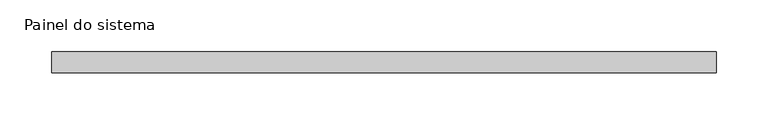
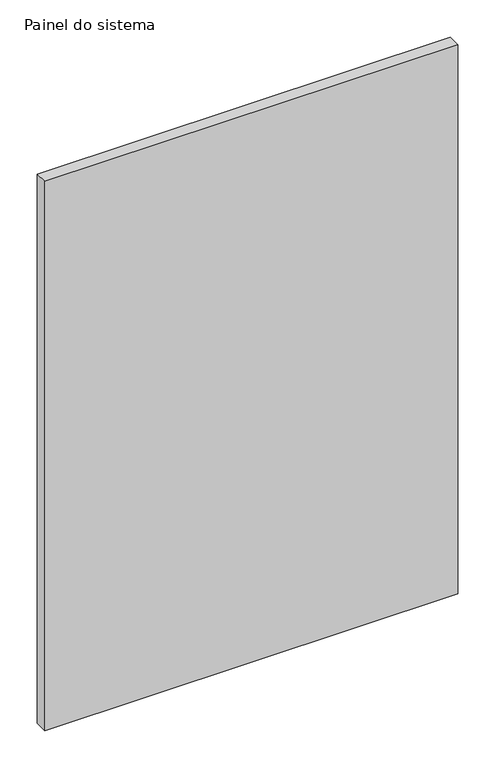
"""IFC4 building model written with IfcOpenShell, lengths in millimetres: plate geometry, Painel do sistema : Envidraçado."""

import ifcopenshell
import ifcopenshell.guid

model = None  # the IFC model being written
_history = None  # IfcOwnerHistory: only IFC2X3 demands one
_inside = {}  # id of a spatial element -> (the spatial element, [elements in it])
_under = {}  # id of a project, library or spatial element -> (it, [spatial elements below it])
_declared = {}  # id of a project -> (the project, [libraries it declares])
_typed = {}  # id of a type object -> (the type object, [elements of that type])
_made_of = {}  # id of a material, layer set ... -> (it, [elements and type objects made of it])


def new_model(schema):
    """Start an empty IFC model of exactly this schema.

    Asked for "IFC4X3", IfcOpenShell would pick the latest addendum, in which some entities
    have other attributes; the version numbers below select the first issue.
    IFC2X3 requires an IfcOwnerHistory on every rooted entity: one is made here for all.
    """
    global model, _history
    if schema == "IFC4X3":
        model = ifcopenshell.file(schema_version=(4, 3, 0, 0))
    else:
        model = ifcopenshell.file(schema=schema)
    _inside.clear()
    _under.clear()
    _declared.clear()
    _typed.clear()
    _made_of.clear()
    _history = None
    if model.schema == "IFC2X3":
        org = make("IfcOrganization", Name="unknown")
        user = make(
            "IfcPersonAndOrganization",
            ThePerson=make("IfcPerson", FamilyName="unknown"),
            TheOrganization=org,
        )
        app = make(
            "IfcApplication",
            ApplicationDeveloper=org,
            Version="unknown",
            ApplicationFullName="unknown",
            ApplicationIdentifier="unknown",
        )
        _history = make(
            "IfcOwnerHistory",
            OwningUser=user,
            OwningApplication=app,
            ChangeAction="ADDED",
            CreationDate=0,
        )
    return model


def make(cls, **values):
    """One entity of the class cls with the attributes given. An attribute that is None is left unset."""
    return model.create_entity(
        cls, **{name: value for name, value in values.items() if value is not None}
    )


def rooted(cls, **values):
    """An entity with a GlobalId (a new one), such as an element, a storey or a relation."""
    return make(cls, GlobalId=ifcopenshell.guid.new(), OwnerHistory=_history, **values)


def si_unit(unit_type, name, prefix=None):
    """IfcSIUnit, for example si_unit("LENGTHUNIT", "METRE", prefix="MILLI")."""
    return make("IfcSIUnit", UnitType=unit_type, Prefix=prefix, Name=name)


def assignment(units):
    """IfcUnitAssignment: the units of a project."""
    return None if units is None else make("IfcUnitAssignment", Units=units)


def point(xyz):
    """IfcCartesianPoint."""
    return None if xyz is None else make("IfcCartesianPoint", Coordinates=xyz)


def direction(xyz):
    """IfcDirection."""
    return None if xyz is None else make("IfcDirection", DirectionRatios=xyz)


def frame(location, z_axis=None, x_axis=None):
    """IfcAxis2Placement3D, a coordinate frame: its origin and axes. An axis left out is left unset."""
    return make(
        "IfcAxis2Placement3D",
        Location=point(location),
        Axis=direction(z_axis),
        RefDirection=direction(x_axis),
    )


def origin():
    """The frame at (0, 0, 0) with its axes left unset."""
    return frame((0.0, 0.0, 0.0))


def origin_with_axes():
    """The frame at (0, 0, 0) with the z axis (0, 0, 1) and the x axis (1, 0, 0) written out."""
    return frame((0.0, 0.0, 0.0), z_axis=(0.0, 0.0, 1.0), x_axis=(1.0, 0.0, 0.0))


def place(relative_to, where):
    """IfcLocalPlacement: puts the frame where relative to a parent placement (None: the world)."""
    return make(
        "IfcLocalPlacement", PlacementRelTo=relative_to, RelativePlacement=where
    )


def context(
    kind, dimensions, precision=None, world=None, true_north=None, identifier=None
):
    """IfcGeometricRepresentationContext, for example the 3D "Model" context."""
    return make(
        "IfcGeometricRepresentationContext",
        ContextIdentifier=identifier,
        ContextType=kind,
        CoordinateSpaceDimension=dimensions,
        Precision=precision,
        WorldCoordinateSystem=world,
        TrueNorth=true_north,
    )


def project(units=None, contexts=None):
    """IfcProject with its units and contexts."""
    return rooted(
        "IfcProject",
        Name="project",
        RepresentationContexts=contexts,
        UnitsInContext=assignment(units),
    )


def spatial(cls, under=None, at=None, **own):
    """A site, building, storey or space (cls), placed at a placement, below another one or the project."""
    s = rooted(cls, ObjectPlacement=at, **own)
    if under is not None:
        _under.setdefault(under.id(), (under, []))[1].append(s)
    return s


def polyline(points):
    """IfcPolyline through the points."""
    return make("IfcPolyline", Points=[point(p) for p in points])


def outline(outer, holes=None, kind="AREA"):
    """IfcArbitraryClosedProfileDef: a profile drawn as a closed curve; with holes, ...WithVoids."""
    if holes is None:
        return make("IfcArbitraryClosedProfileDef", ProfileType=kind, OuterCurve=outer)
    return make(
        "IfcArbitraryProfileDefWithVoids",
        ProfileType=kind,
        OuterCurve=outer,
        InnerCurves=holes,
    )


def extrude(swept, where, along, depth):
    """IfcExtrudedAreaSolid: the profile swept, set in the frame where, extruded along a direction by depth."""
    return make(
        "IfcExtrudedAreaSolid",
        SweptArea=swept,
        Position=where,
        ExtrudedDirection=direction(along),
        Depth=depth,
    )


def shape(context_of_items, identifier, shape_type, items):
    """IfcShapeRepresentation: the items that make up one representation, for example the "Body"."""
    return make(
        "IfcShapeRepresentation",
        ContextOfItems=context_of_items,
        RepresentationIdentifier=identifier,
        RepresentationType=shape_type,
        Items=items,
    )


def source(mapping_origin, context_of_items, identifier, shape_type, items):
    """IfcRepresentationMap: a shape defined once, which mapped items show again and again."""
    return make(
        "IfcRepresentationMap",
        MappingOrigin=mapping_origin,
        MappedRepresentation=shape(context_of_items, identifier, shape_type, items),
    )


def transform(
    local_origin,
    x_axis=None,
    y_axis=None,
    z_axis=None,
    scale=None,
    scale2=None,
    scale3=None,
    uniform=True,
):
    """IfcCartesianTransformationOperator3D, or its non-uniform kind. x_axis, y_axis, z_axis: its Axis1, 2, 3."""
    if uniform:
        return make(
            "IfcCartesianTransformationOperator3D",
            Axis1=direction(x_axis),
            Axis2=direction(y_axis),
            LocalOrigin=point(local_origin),
            Scale=scale,
            Axis3=direction(z_axis),
        )
    return make(
        "IfcCartesianTransformationOperator3DnonUniform",
        Axis1=direction(x_axis),
        Axis2=direction(y_axis),
        LocalOrigin=point(local_origin),
        Scale=scale,
        Axis3=direction(z_axis),
        Scale2=scale2,
        Scale3=scale3,
    )


def mapped(mapping_source, mapping_target):
    """IfcMappedItem: shows the shape of a source again, moved by a transform."""
    return make(
        "IfcMappedItem", MappingSource=mapping_source, MappingTarget=mapping_target
    )


def made_of(thing, what):
    """Note that an element or type object is made of a material, layer set ...; save() writes the relation."""
    if what is not None:
        _made_of.setdefault(what.id(), (what, []))[1].append(thing)
    return thing


def element(
    cls,
    number,
    at=None,
    inside=None,
    cuts=None,
    type_object=None,
    material=None,
    context=None,
    identifier="Body",
    shape_type=None,
    held_by="IfcProductDefinitionShape",
    body=None,
    shapes=None,
    **own,
):
    """One element of the class cls, such as IfcWall. Its Tag is "e" and its number.

    at: its placement. inside: the storey or other place that contains it. cuts: it is an
    opening in that element (IfcRelVoidsElement). A single representation is given by context,
    identifier, shape_type and body (its items); several are given by shapes. held_by: the class
    of the entity that holds the representations. save() writes the other relations.
    """
    e = rooted(cls, Tag="e%d" % number, ObjectPlacement=at, **own)
    if body is not None:
        shapes = [shape(context, identifier, shape_type, body)]
    if shapes is not None:
        e.Representation = make(held_by, Representations=shapes)
    if inside is not None:
        _inside.setdefault(inside.id(), (inside, []))[1].append(e)
    if cuts is not None:
        rooted(
            "IfcRelVoidsElement", RelatingBuildingElement=cuts, RelatedOpeningElement=e
        )
    if type_object is not None:
        _typed.setdefault(type_object.id(), (type_object, []))[1].append(e)
    return made_of(e, material)


def aggregate(whole, parts):
    """IfcRelAggregates: a whole, such as a stair, and the parts it consists of."""
    return rooted("IfcRelAggregates", RelatingObject=whole, RelatedObjects=parts)


def save(model, path):
    """Write the relations noted so far, then the file.

    IfcRelAggregates (storeys below a building ...), IfcRelContainedInSpatialStructure (elements
    in a storey), IfcRelDefinesByType, IfcRelAssociatesMaterial and IfcRelDeclares: one each for
    every whole, place, type object, material and project.
    """
    for whole, parts in _under.values():
        aggregate(whole, parts)
    for where, things in _inside.values():
        rooted(
            "IfcRelContainedInSpatialStructure",
            RelatedElements=things,
            RelatingStructure=where,
        )
    for kind, things in _typed.values():
        rooted("IfcRelDefinesByType", RelatedObjects=things, RelatingType=kind)
    for what, things in _made_of.values():
        rooted("IfcRelAssociatesMaterial", RelatedObjects=things, RelatingMaterial=what)
    for by, libraries in _declared.values():
        rooted("IfcRelDeclares", RelatingContext=by, RelatedDefinitions=libraries)
    model.write(path)


def painel_do_sistema_0196877a(model_context):
    return source(origin(), model_context, "Body", "SweptSolid", [
        extrude(outline(polyline([(320.0, -10.0), (-320.0, -10.0), (-320.0, 10.0), (320.0, 10.0), (320.0, -10.0)])), origin_with_axes(), (0.0, 0.0, 1.0), 900.0),
    ])


if __name__ == "__main__":
    model = new_model("IFC4")
    model_context = context("Model", 3, world=origin())
    ifc_project = project(units=[si_unit("LENGTHUNIT", "METRE", prefix="MILLI")], contexts=[model_context])
    site = spatial("IfcSite", under=ifc_project)
    building = spatial("IfcBuilding", under=site)
    placement = place(None, origin())
    painel_do_sistema_shape = painel_do_sistema_0196877a(model_context)
    element("IfcPlate", 1, ObjectType="Painel do sistema : Envidraçado", at=placement, inside=building, context=model_context, shape_type="MappedRepresentation", body=[
        mapped(painel_do_sistema_shape, transform((0.0, 0.0, 0.0), x_axis=(1.0, 0.0, 0.0), y_axis=(0.0, 1.0, 0.0), z_axis=(0.0, 0.0, 1.0))),
    ])
    save(model, "model.ifc")
